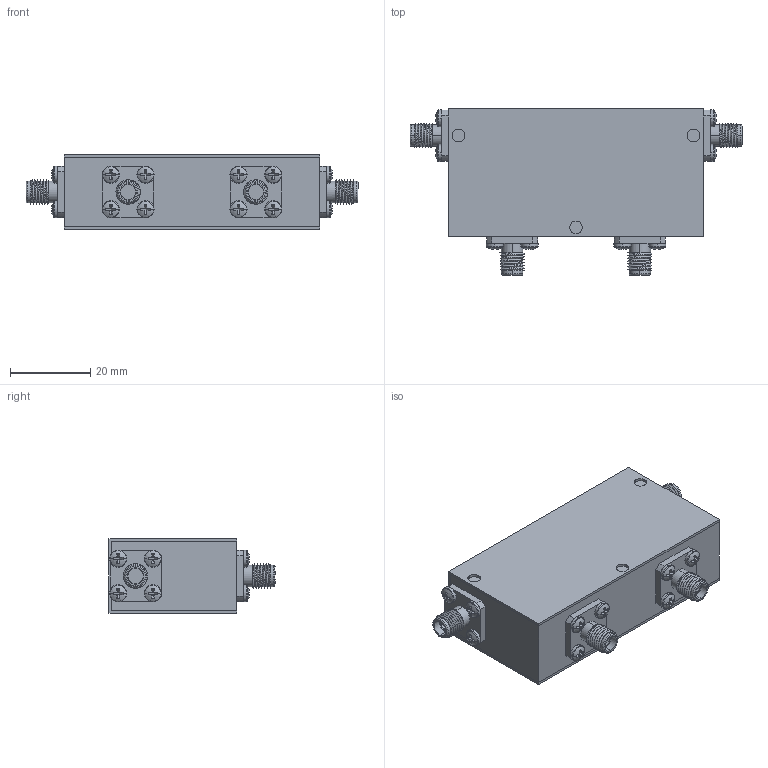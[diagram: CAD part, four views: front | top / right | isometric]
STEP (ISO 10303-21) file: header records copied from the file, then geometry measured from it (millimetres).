
FILE_DESCRIPTION (( 'STEP AP214' ), '1' );
FILE_NAME ('Package 13 Circ FFFF.step', '2021-12-01T20:57:22', ( '' ), ( '' ), 'SwSTEP 2.0', 'SolidWorks 2016', '' );
FILE_SCHEMA (( 'AUTOMOTIVE_DESIGN' ));
Length unit declared in the file: inch
Products named in the file (5): Package Size 13; pan cross head_ai_CR-PHMS 0.086-56x0.125x0.125-N; Package 13 Circ FFFF; Package 13; Delta SMA-Female 0.500 flange Threaded
Assembly tree (22 placements, depth 2):
  Package 13 Circ FFFF
    Package 13
    Delta SMA-Female 0.500 flange Threaded  x4
    pan cross head_ai_CR-PHMS 0.086-56x0.125x0.125-N  x16
    Package Size 13
Bounding box: 82.55 x 41.27 x 18.54 mm (x, y, z)
Volume: 38964.1 mm3; surface area: 21428.7 mm2
Topology: 22 solids, 22 shells, 552 faces, 1252 edges, 772 vertices
Faces by surface type: plane 304, cylinder 164, torus 40, sphere 32, bspline 12
Entity records: 3769 total; most frequent: CARTESIAN_POINT 1210, DIRECTION 537, ORIENTED_EDGE 434, EDGE_CURVE 217, AXIS2_PLACEMENT_3D 216, VERTEX_POINT 139, EDGE_LOOP 116, LINE 105
